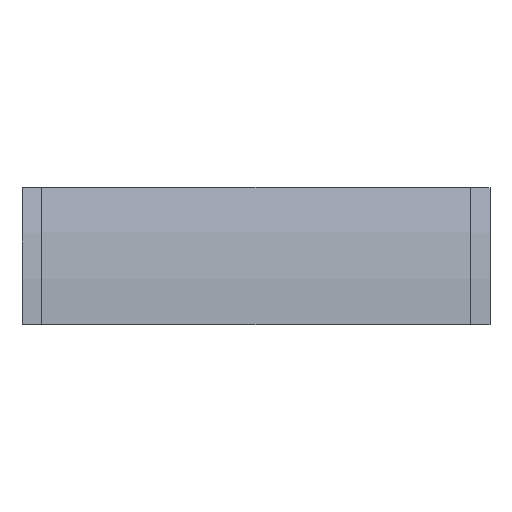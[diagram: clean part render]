
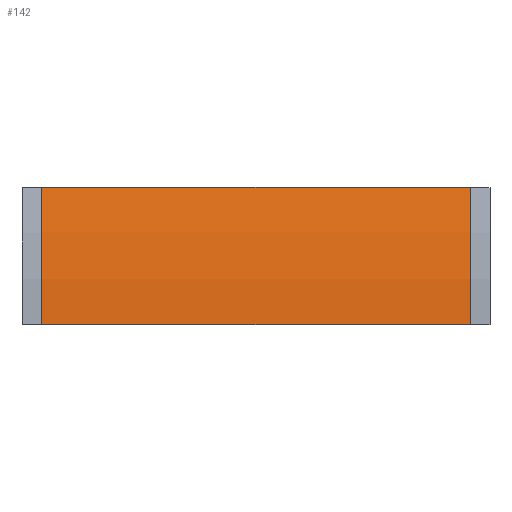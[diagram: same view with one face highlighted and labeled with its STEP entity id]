
A CAD part, front view. The second image highlights one B-rep face of the part: STEP entity #142.
In plain terms, the highlighted cylindrical face has radius 568 mm (diameter 1136 mm), a partial arc.
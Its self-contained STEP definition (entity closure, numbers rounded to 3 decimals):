
#66 = ORIENTED_EDGE ( 'NONE', *, *, #988, .F. ) ;
#67 = ORIENTED_EDGE ( 'NONE', *, *, #989, .F. ) ;
#68 = ORIENTED_EDGE ( 'NONE', *, *, #985, .T. ) ;
#69 = ORIENTED_EDGE ( 'NONE', *, *, #990, .T. ) ;
#142 = ADVANCED_FACE ( 'NONE', ( #756 ), #761, .T. ) ;
#224 = CARTESIAN_POINT ( 'NONE',  ( 0., 500., 0. ) ) ;
#286 = DIRECTION ( 'NONE',  ( 1., 0., 0. ) ) ;
#288 = DIRECTION ( 'NONE',  ( 0., 0., -1. ) ) ;
#354 = CARTESIAN_POINT ( 'NONE',  ( -228.5, -68., 0. ) ) ;
#429 = CARTESIAN_POINT ( 'NONE',  ( 228.5, -68., 0. ) ) ;
#465 = CARTESIAN_POINT ( 'NONE',  ( 228.5, -48.646, 147.009 ) ) ;
#466 = CARTESIAN_POINT ( 'NONE',  ( -228.5, -48.646, 147.009 ) ) ;
#532 = DIRECTION ( 'NONE',  ( 1., 0., 0. ) ) ;
#534 = CARTESIAN_POINT ( 'NONE',  ( -228.5, 500., 0. ) ) ;
#535 = DIRECTION ( 'NONE',  ( 1., 0., 0. ) ) ;
#536 = DIRECTION ( 'NONE',  ( 0., 0., -1. ) ) ;
#540 = CARTESIAN_POINT ( 'NONE',  ( -228.5, -48.646, 147.009 ) ) ;
#541 = CARTESIAN_POINT ( 'NONE',  ( 228.5, 500., 0. ) ) ;
#542 = DIRECTION ( 'NONE',  ( 1., 0., 0. ) ) ;
#543 = DIRECTION ( 'NONE',  ( 0., 0., -1. ) ) ;
#544 = CARTESIAN_POINT ( 'NONE',  ( -228.5, -68., 0. ) ) ;
#545 = DIRECTION ( 'NONE',  ( 1., 0., 0. ) ) ;
#633 = VERTEX_POINT ( 'NONE', #354 ) ;
#641 = VERTEX_POINT ( 'NONE', #429 ) ;
#677 = VERTEX_POINT ( 'NONE', #465 ) ;
#678 = VERTEX_POINT ( 'NONE', #466 ) ;
#711 = EDGE_LOOP ( 'NONE', ( #66, #67, #68, #69 ) ) ;
#756 = FACE_OUTER_BOUND ( 'NONE', #711, .T. ) ;
#761 = CYLINDRICAL_SURFACE ( 'NONE', #910, 568. ) ;
#871 = CIRCLE ( 'NONE', #943, 568. ) ;
#873 = LINE ( 'NONE', #540, #880 ) ;
#876 = CIRCLE ( 'NONE', #944, 568. ) ;
#879 = LINE ( 'NONE', #544, #882 ) ;
#880 = VECTOR ( 'NONE', #532, 1000. ) ;
#882 = VECTOR ( 'NONE', #545, 1000. ) ;
#910 = AXIS2_PLACEMENT_3D ( 'NONE', #224, #286, #288 ) ;
#943 = AXIS2_PLACEMENT_3D ( 'NONE', #534, #535, #536 ) ;
#944 = AXIS2_PLACEMENT_3D ( 'NONE', #541, #542, #543 ) ;
#985 = EDGE_CURVE ( 'NONE', #678, #633, #871, .T. ) ;
#988 = EDGE_CURVE ( 'NONE', #677, #641, #876, .T. ) ;
#989 = EDGE_CURVE ( 'NONE', #678, #677, #873, .T. ) ;
#990 = EDGE_CURVE ( 'NONE', #633, #641, #879, .T. ) ;
